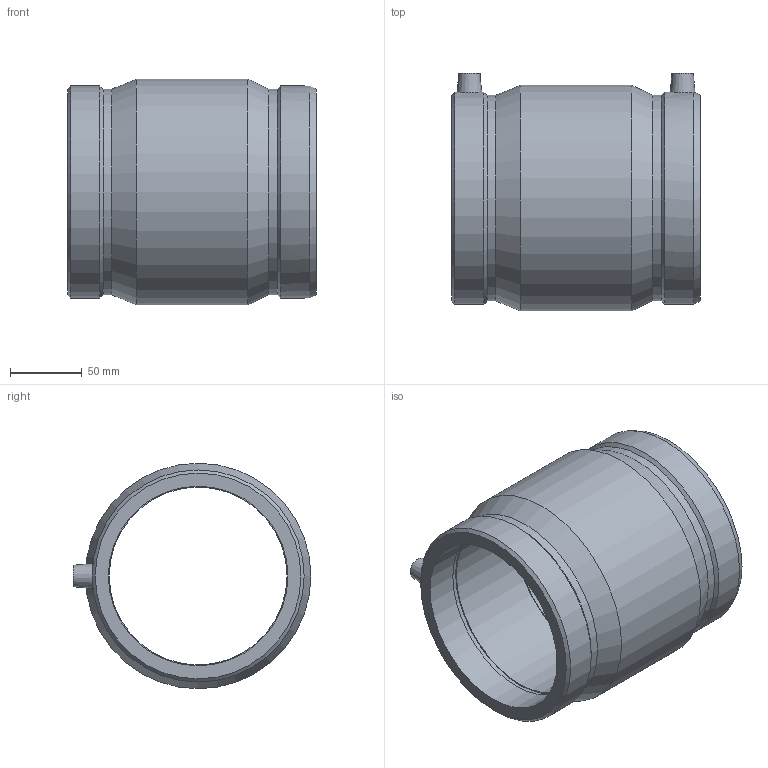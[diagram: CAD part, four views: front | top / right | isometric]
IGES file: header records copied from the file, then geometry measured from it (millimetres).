
Global section: file name: 450104125.ipt; native system: Autodesk Inventor 2015; preprocessor: unknown; author: KIM; date: 20171106.093352; units: millimetre
Bounding box: 173 x 165.5 x 157 mm (x, y, z)
Volume: 1015360.4 mm3; surface area: 164529.3 mm2
Topology: 1 solids, 1 shells, 36 faces, 80 edges, 54 vertices
Faces by surface type: plane 12, revolution 9, cone 8, cylinder 7
Full cylindrical faces by diameter (mm): 4 x2, 143.153 x2, 147.58 x2, 157 x1
